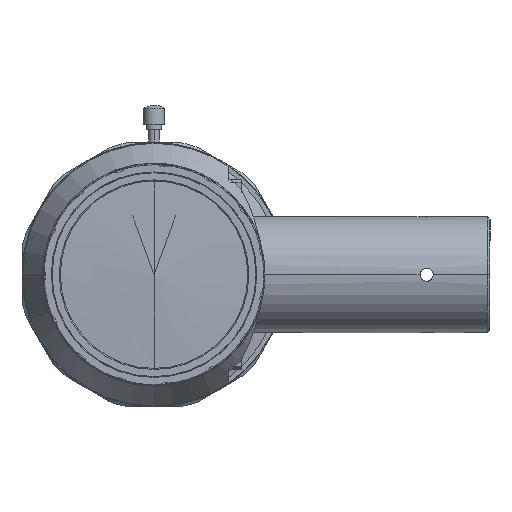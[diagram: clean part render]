
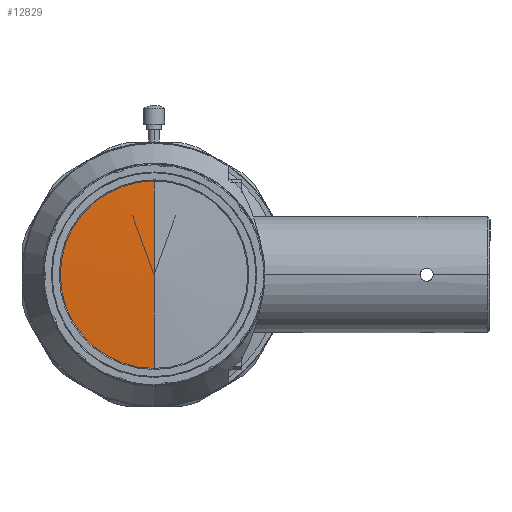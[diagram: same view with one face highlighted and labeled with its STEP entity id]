
A CAD part, left-side view. The second image highlights one B-rep face of the part: STEP entity #12829.
In plain terms, the highlighted conical face has half-angle 87.803 degrees and reference radius 17.75 mm.
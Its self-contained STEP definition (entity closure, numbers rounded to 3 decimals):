
#13 = CARTESIAN_POINT ( 'NONE',  ( 0.681, 0., -17.75 ) ) ;
#1873 = CARTESIAN_POINT ( 'NONE',  ( 0.681, 0., 0. ) ) ;
#2291 = VECTOR ( 'NONE', #7261, 1000. ) ;
#2845 = CARTESIAN_POINT ( 'NONE',  ( 0.681, 0., -17.75 ) ) ;
#3352 = VERTEX_POINT ( 'NONE', #8756 ) ;
#5507 = LINE ( 'NONE', #10511, #2291 ) ;
#6058 = VERTEX_POINT ( 'NONE', #13 ) ;
#6081 = ORIENTED_EDGE ( 'NONE', *, *, #17627, .T. ) ;
#6354 = AXIS2_PLACEMENT_3D ( 'NONE', #16451, #15061, #16512 ) ;
#7261 = DIRECTION ( 'NONE',  ( 0.038, 0., 0.999 ) ) ;
#7346 = VECTOR ( 'NONE', #11584, 1000. ) ;
#7375 = CIRCLE ( 'NONE', #11387, 17.75 ) ;
#8756 = CARTESIAN_POINT ( 'NONE',  ( 0., 0., 0. ) ) ;
#9143 = DIRECTION ( 'NONE',  ( 0., 0., 1. ) ) ;
#10077 = EDGE_LOOP ( 'NONE', ( #18250, #6081, #10093 ) ) ;
#10093 = ORIENTED_EDGE ( 'NONE', *, *, #14933, .T. ) ;
#10511 = CARTESIAN_POINT ( 'NONE',  ( 0.681, 0., 17.75 ) ) ;
#10643 = CARTESIAN_POINT ( 'NONE',  ( 0.681, 0., 17.75 ) ) ;
#11387 = AXIS2_PLACEMENT_3D ( 'NONE', #1873, #15018, #9143 ) ;
#11423 = EDGE_CURVE ( 'NONE', #3352, #6058, #14128, .T. ) ;
#11584 = DIRECTION ( 'NONE',  ( 0.038, 0., -0.999 ) ) ;
#12811 = FACE_OUTER_BOUND ( 'NONE', #10077, .T. ) ;
#12829 = ADVANCED_FACE ( 'NONE', ( #12811 ), #17866, .T. ) ;
#14028 = VERTEX_POINT ( 'NONE', #10643 ) ;
#14128 = LINE ( 'NONE', #2845, #7346 ) ;
#14933 = EDGE_CURVE ( 'NONE', #14028, #6058, #7375, .T. ) ;
#15018 = DIRECTION ( 'NONE',  ( -1., 0., 0. ) ) ;
#15061 = DIRECTION ( 'NONE',  ( 1., 0., 0. ) ) ;
#16451 = CARTESIAN_POINT ( 'NONE',  ( 0.681, 0., 0. ) ) ;
#16512 = DIRECTION ( 'NONE',  ( 0., 0., -1. ) ) ;
#17627 = EDGE_CURVE ( 'NONE', #3352, #14028, #5507, .T. ) ;
#17866 = CONICAL_SURFACE ( 'NONE', #6354, 17.75, 1.532 ) ;
#18250 = ORIENTED_EDGE ( 'NONE', *, *, #11423, .F. ) ;
